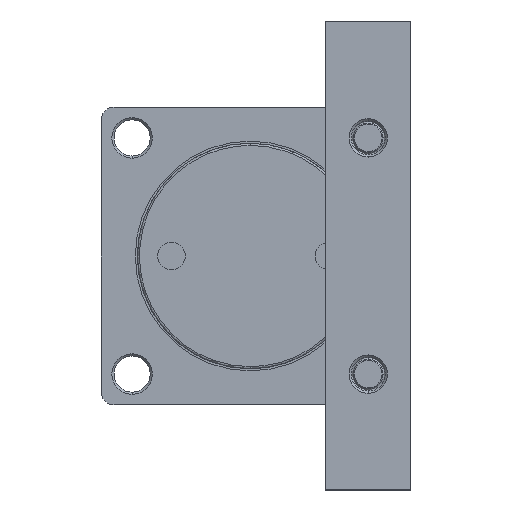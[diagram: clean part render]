
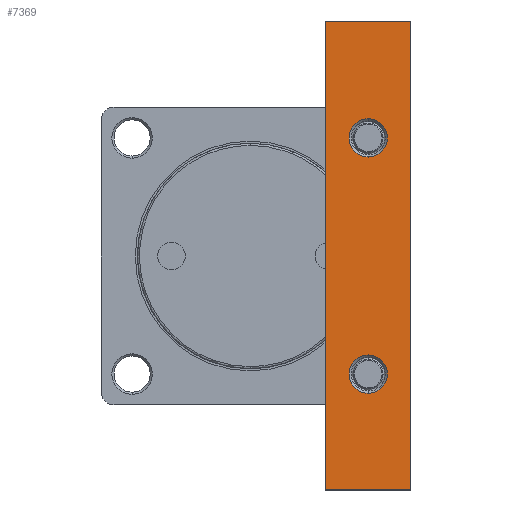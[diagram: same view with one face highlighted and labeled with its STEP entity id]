
A CAD part, left-side view. The second image highlights one B-rep face of the part: STEP entity #7369.
In plain terms, the highlighted planar face has unit normal (1, 0, 0).
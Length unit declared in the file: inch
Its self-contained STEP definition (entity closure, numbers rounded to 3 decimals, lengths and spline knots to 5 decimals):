
#160 = ORIENTED_EDGE ( 'NONE', *, *, #11694, .T. ) ;
#308 = DIRECTION ( 'NONE',  ( 0., -1., 0. ) ) ;
#323 = EDGE_LOOP ( 'NONE', ( #7024, #4591, #11560, #3895 ) ) ;
#574 = DIRECTION ( 'NONE',  ( -1., 0., 0. ) ) ;
#736 = EDGE_LOOP ( 'NONE', ( #5882, #160 ) ) ;
#1328 = EDGE_CURVE ( 'NONE', #3134, #4989, #3069, .T. ) ;
#1347 = CARTESIAN_POINT ( 'NONE',  ( -2.61811, -2.97244, 4.33071 ) ) ;
#1363 = DIRECTION ( 'NONE',  ( 0., 1., 0. ) ) ;
#1636 = CARTESIAN_POINT ( 'NONE',  ( -2.61811, -2.18504, 1.83071 ) ) ;
#1656 = EDGE_LOOP ( 'NONE', ( #2282, #12313 ) ) ;
#1896 = VERTEX_POINT ( 'NONE', #2238 ) ;
#1922 = VERTEX_POINT ( 'NONE', #1636 ) ;
#1952 = AXIS2_PLACEMENT_3D ( 'NONE', #12292, #8895, #11367 ) ;
#2169 = CIRCLE ( 'NONE', #12764, 0.35433 ) ;
#2238 = CARTESIAN_POINT ( 'NONE',  ( -2.61811, -2.97244, -4.33071 ) ) ;
#2269 = CARTESIAN_POINT ( 'NONE',  ( -2.61811, -2.18504, -1.83071 ) ) ;
#2282 = ORIENTED_EDGE ( 'NONE', *, *, #13409, .T. ) ;
#2340 = CIRCLE ( 'NONE', #12278, 0.35433 ) ;
#2366 = LINE ( 'NONE', #7696, #4358 ) ;
#3069 = CIRCLE ( 'NONE', #6300, 0.35433 ) ;
#3121 = LINE ( 'NONE', #10874, #3179 ) ;
#3129 = DIRECTION ( 'NONE',  ( -1., 0., 0. ) ) ;
#3134 = VERTEX_POINT ( 'NONE', #2269 ) ;
#3164 = FACE_BOUND ( 'NONE', #1656, .T. ) ;
#3179 = VECTOR ( 'NONE', #1363, 39.37008 ) ;
#3310 = VECTOR ( 'NONE', #308, 39.37008 ) ;
#3381 = VECTOR ( 'NONE', #6054, 39.37008 ) ;
#3397 = LINE ( 'NONE', #13232, #3381 ) ;
#3588 = LINE ( 'NONE', #1347, #3310 ) ;
#3659 = FACE_OUTER_BOUND ( 'NONE', #323, .T. ) ;
#3895 = ORIENTED_EDGE ( 'NONE', *, *, #12461, .T. ) ;
#4040 = FACE_BOUND ( 'NONE', #736, .T. ) ;
#4358 = VECTOR ( 'NONE', #8742, 39.37008 ) ;
#4376 = CARTESIAN_POINT ( 'NONE',  ( -2.61811, -1.39764, 4.33071 ) ) ;
#4591 = ORIENTED_EDGE ( 'NONE', *, *, #12790, .T. ) ;
#4727 = CIRCLE ( 'NONE', #9840, 0.35433 ) ;
#4989 = VERTEX_POINT ( 'NONE', #5420 ) ;
#5420 = CARTESIAN_POINT ( 'NONE',  ( -2.61811, -2.18504, -2.53937 ) ) ;
#5552 = VERTEX_POINT ( 'NONE', #11658 ) ;
#5882 = ORIENTED_EDGE ( 'NONE', *, *, #1328, .T. ) ;
#6054 = DIRECTION ( 'NONE',  ( 0., 0., -1. ) ) ;
#6157 = VERTEX_POINT ( 'NONE', #7348 ) ;
#6241 = PLANE ( 'NONE',  #1952 ) ;
#6300 = AXIS2_PLACEMENT_3D ( 'NONE', #8458, #8455, #8429 ) ;
#6870 = CARTESIAN_POINT ( 'NONE',  ( -2.61811, -2.18504, 2.18504 ) ) ;
#7024 = ORIENTED_EDGE ( 'NONE', *, *, #13139, .T. ) ;
#7348 = CARTESIAN_POINT ( 'NONE',  ( -2.61811, -2.18504, 2.53937 ) ) ;
#7369 = ADVANCED_FACE ( 'NONE', ( #3659, #3164, #4040 ), #6241, .T. ) ;
#7696 = CARTESIAN_POINT ( 'NONE',  ( -2.61811, -1.39764, 4.33071 ) ) ;
#7869 = DIRECTION ( 'NONE',  ( 0., 0., 1. ) ) ;
#7955 = DIRECTION ( 'NONE',  ( 0., 0., 1. ) ) ;
#8429 = DIRECTION ( 'NONE',  ( 0., 0., 1. ) ) ;
#8455 = DIRECTION ( 'NONE',  ( -1., 0., 0. ) ) ;
#8458 = CARTESIAN_POINT ( 'NONE',  ( -2.61811, -2.18504, -2.18504 ) ) ;
#8742 = DIRECTION ( 'NONE',  ( 0., 0., 1. ) ) ;
#8895 = DIRECTION ( 'NONE',  ( 1., 0., 0. ) ) ;
#9407 = DIRECTION ( 'NONE',  ( 0., 0., 1. ) ) ;
#9766 = CARTESIAN_POINT ( 'NONE',  ( -2.61811, -2.18504, 2.18504 ) ) ;
#9828 = DIRECTION ( 'NONE',  ( -1., 0., 0. ) ) ;
#9831 = CARTESIAN_POINT ( 'NONE',  ( -2.61811, -1.39764, -4.33071 ) ) ;
#9840 = AXIS2_PLACEMENT_3D ( 'NONE', #9766, #9828, #7955 ) ;
#10508 = CARTESIAN_POINT ( 'NONE',  ( -2.61811, -2.18504, -2.18504 ) ) ;
#10874 = CARTESIAN_POINT ( 'NONE',  ( -2.61811, -2.97244, -4.33071 ) ) ;
#11367 = DIRECTION ( 'NONE',  ( 0., 0., -1. ) ) ;
#11560 = ORIENTED_EDGE ( 'NONE', *, *, #12646, .T. ) ;
#11649 = VERTEX_POINT ( 'NONE', #4376 ) ;
#11658 = CARTESIAN_POINT ( 'NONE',  ( -2.61811, -2.97244, 4.33071 ) ) ;
#11694 = EDGE_CURVE ( 'NONE', #4989, #3134, #2169, .T. ) ;
#11946 = EDGE_CURVE ( 'NONE', #1922, #6157, #2340, .T. ) ;
#12278 = AXIS2_PLACEMENT_3D ( 'NONE', #6870, #574, #7869 ) ;
#12292 = CARTESIAN_POINT ( 'NONE',  ( -2.61811, -2.97244, 4.33071 ) ) ;
#12313 = ORIENTED_EDGE ( 'NONE', *, *, #11946, .T. ) ;
#12461 = EDGE_CURVE ( 'NONE', #1896, #13161, #3121, .T. ) ;
#12646 = EDGE_CURVE ( 'NONE', #5552, #1896, #3397, .T. ) ;
#12764 = AXIS2_PLACEMENT_3D ( 'NONE', #10508, #3129, #9407 ) ;
#12790 = EDGE_CURVE ( 'NONE', #11649, #5552, #3588, .T. ) ;
#13139 = EDGE_CURVE ( 'NONE', #13161, #11649, #2366, .T. ) ;
#13161 = VERTEX_POINT ( 'NONE', #9831 ) ;
#13232 = CARTESIAN_POINT ( 'NONE',  ( -2.61811, -2.97244, 4.33071 ) ) ;
#13409 = EDGE_CURVE ( 'NONE', #6157, #1922, #4727, .T. ) ;
